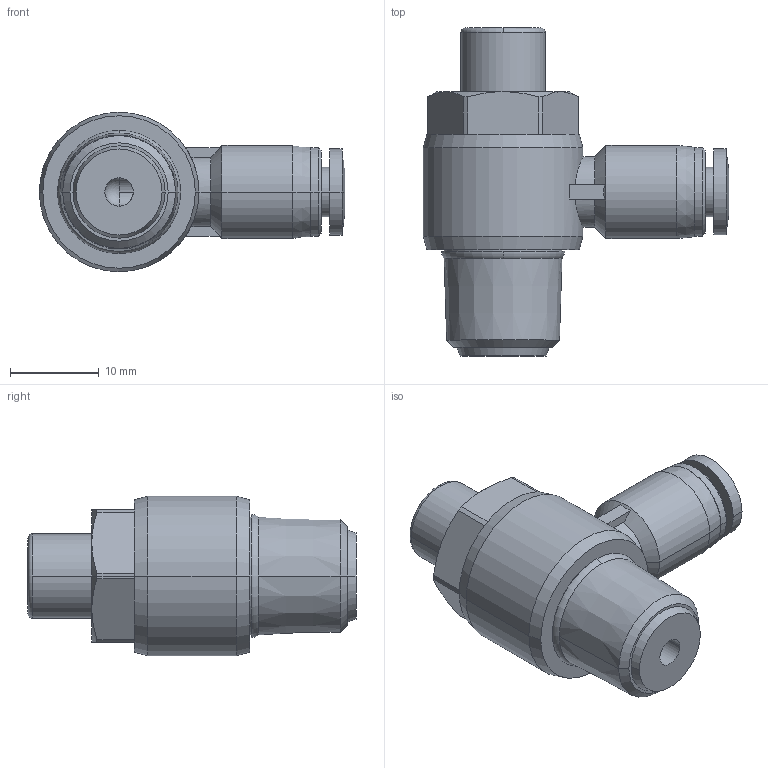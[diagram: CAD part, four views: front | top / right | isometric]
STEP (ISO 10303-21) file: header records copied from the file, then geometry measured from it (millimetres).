
FILE_DESCRIPTION (( 'STEP AP203' ), '1' );
FILE_NAME ('SCLF04-02.STEP', '2020-05-13T17:26:24', ( '' ), ( '' ), 'SwSTEP 2.0', 'SolidWorks 2019', '' );
FILE_SCHEMA (( 'CONFIG_CONTROL_DESIGN' ));
Length unit declared in the file: millimetre
Products named in the file (1): SCLF04-02
Bounding box: 34.45 x 37 x 18 mm (x, y, z)
Volume: 6993.8 mm3; surface area: 3530.3 mm2
Topology: 1 solids, 1 shells, 123 faces, 294 edges, 181 vertices
Faces by surface type: plane 45, cylinder 39, cone 32, torus 4, bspline 2, sphere 1
Entity records: 3761 total; most frequent: CARTESIAN_POINT 822, DIRECTION 640, ORIENTED_EDGE 582, EDGE_CURVE 291, AXIS2_PLACEMENT_3D 257, VERTEX_POINT 181, EDGE_LOOP 136, CIRCLE 135
